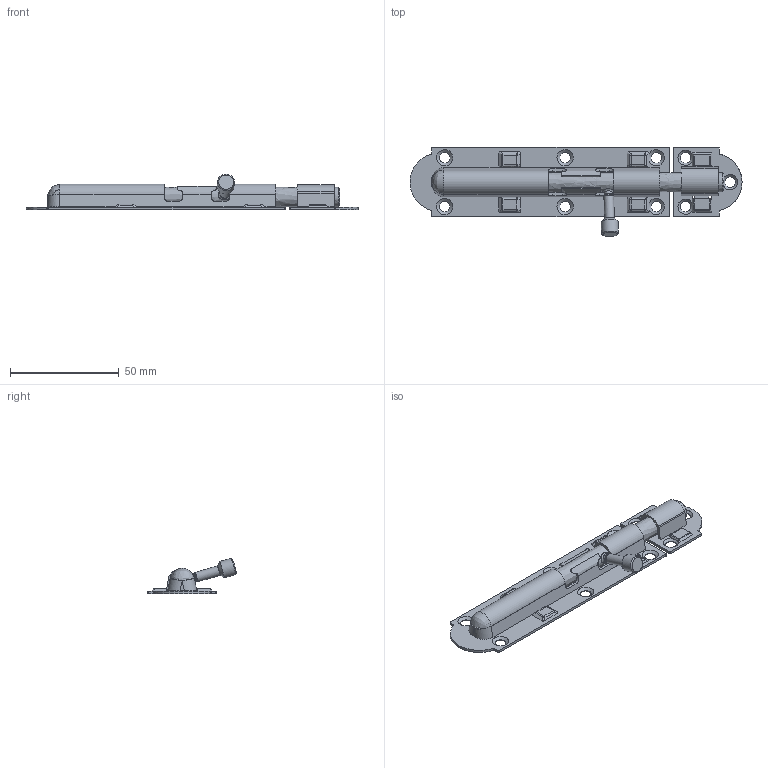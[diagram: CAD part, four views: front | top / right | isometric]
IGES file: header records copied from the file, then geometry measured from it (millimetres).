
Global section: file name: DR_ODS3-6S; native system: Autodesk Inventor 2015; preprocessor: unknown; author: Administrator; date: 20170901.110905; units: millimetre
Bounding box: 152.95 x 41.03 x 16.32 mm (x, y, z)
Volume: 14360.8 mm3; surface area: 18791.7 mm2
Topology: 5 solids, 5 shells, 354 faces, 945 edges, 591 vertices
Faces by surface type: bspline 354
